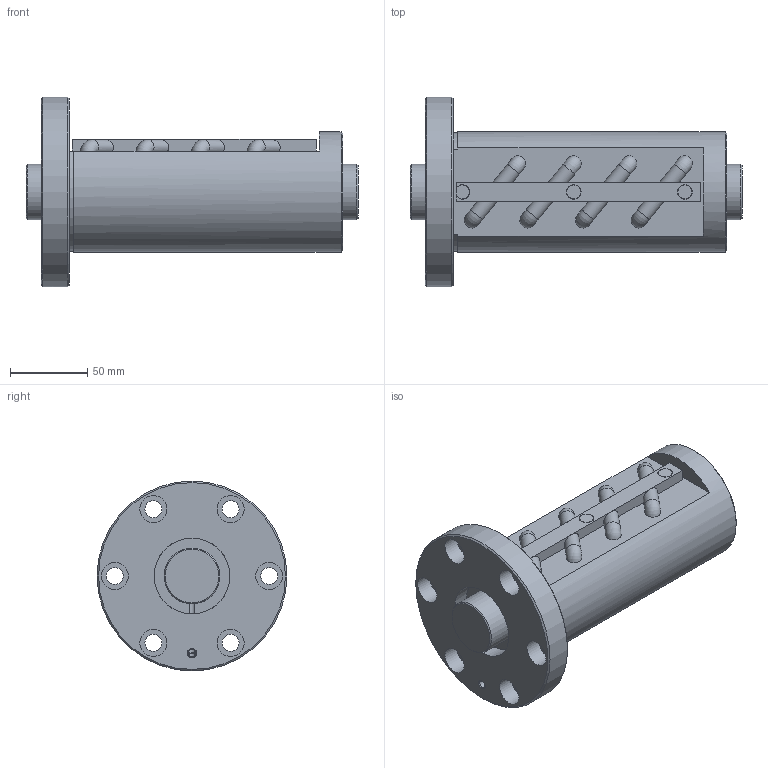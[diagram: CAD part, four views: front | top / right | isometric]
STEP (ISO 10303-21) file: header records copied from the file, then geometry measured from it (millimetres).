
FILE_DESCRIPTION(/* description */ ('STEP AP203'),/* implementation_level */ '2;1');
FILE_NAME(/* name */ 'BIF3612V-10RRG0+215LC0_000',/* time_stamp */ '2024-07-15T08:23:49+02:00',/* author */ ('License CC BY-ND 4.0'),/* organization */ ('CADENAS'),/* preprocessor_version */ 'ST-DEVELOPER v19.3',/* originating_system */ 'PARTsolutions',/* authorisation */ ' ');
FILE_SCHEMA (('CONFIG_CONTROL_DESIGN','MODEL_BASED_INTEGRATED_MANUFACTURING_SCHEMA'));
Length unit declared in the file: millimetre
Products named in the file (3): BIF3612V-10RRG0+215LC0_000; BIF3612V-10RR000 Shaft; BIF3612V-10RR Nut
Assembly tree (2 placements, depth 2):
  BIF3612V-10RRG0+215LC0_000
    BIF3612V-10RR000 Shaft
    BIF3612V-10RR Nut
Bounding box: 215 x 123 x 123 mm (x, y, z)
Volume: 983235.6 mm3; surface area: 129619.8 mm2
Topology: 2 solids, 2 shells, 106 faces, 249 edges, 159 vertices
Faces by surface type: plane 53, cylinder 36, cone 9, torus 8
Full cylindrical faces by diameter (mm): 4.25 x2, 4.917 x1, 9 x2, 9.5 x2, 11 x6, 17.5 x6, 36 x2, 49.2 x2, 78 x1, 123 x1
Entity records: 3058 total; most frequent: CARTESIAN_POINT 647, DIRECTION 524, ORIENTED_EDGE 408, AXIS2_PLACEMENT_3D 227, EDGE_CURVE 204, FACE_BOUND 169, EDGE_LOOP 168, VERTEX_POINT 149
